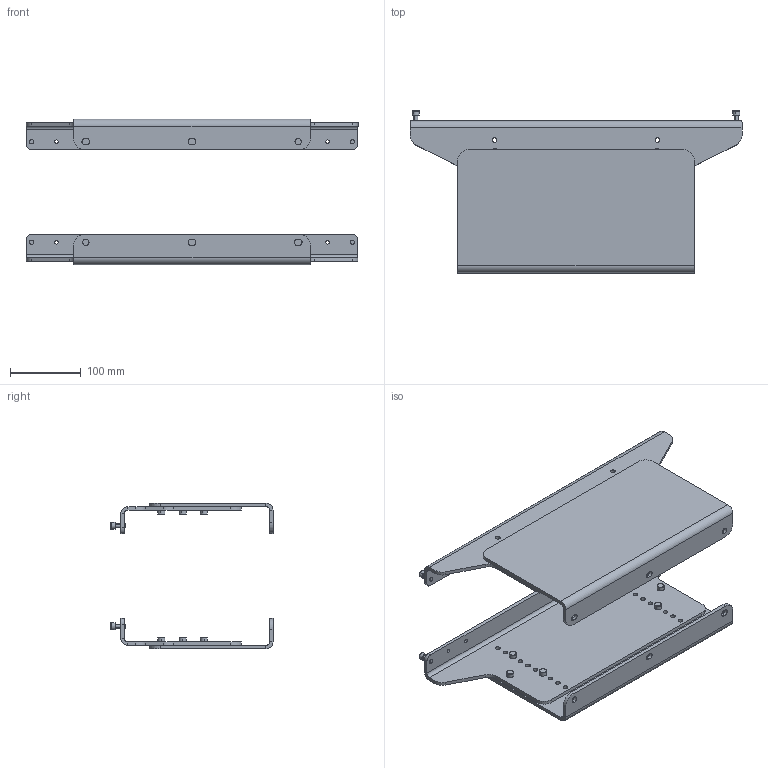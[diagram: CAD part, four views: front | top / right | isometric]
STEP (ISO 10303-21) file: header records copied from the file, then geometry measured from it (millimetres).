
FILE_DESCRIPTION (( 'STEP AP214' ), '1' );
FILE_NAME ('Asyril_MODULAR ASYFILL FIXATION KIT_000.105.533_(option)_ASYFILL-L.STEP', '2022-12-05T10:16:49', ( '%MACHINENAME%' ), ( 'CPA-GROUP.LOCAL' ), 'SwSTEP 2.0', 'SolidWorks 2019', '' );
FILE_SCHEMA (( 'AUTOMOTIVE_DESIGN' ));
Length unit declared in the file: millimetre
Products named in the file (3): Asyril_MODULAR HOPPER FIXATION KIT_000.105.533_(option)_L_FIXATION; Asyril_MODULAR ASYFILL FIXATION KIT_000.105.533_(option)_ASYFILL-L; Asyril_MODULAR HOPPER FIXATION KIT_000.105.533_(option)_L_BASE
Assembly tree (2 placements, depth 2):
  Asyril_MODULAR ASYFILL FIXATION KIT_000.105.533_(option)_ASYFILL-L
    Asyril_MODULAR HOPPER FIXATION KIT_000.105.533_(option)_L_BASE
    Asyril_MODULAR HOPPER FIXATION KIT_000.105.533_(option)_L_FIXATION
Bounding box: 469 x 229 x 206 mm (x, y, z)
Volume: 1461185.9 mm3; surface area: 615576.9 mm2
Topology: 4 solids, 4 shells, 344 faces, 836 edges, 536 vertices
Faces by surface type: cylinder 212, plane 100, torus 32
Entity records: 12228 total; most frequent: DIRECTION 2022, CARTESIAN_POINT 1721, ORIENTED_EDGE 1672, AXIS2_PLACEMENT_3D 837, EDGE_CURVE 836, VERTEX_POINT 536, EDGE_LOOP 488, CIRCLE 488
